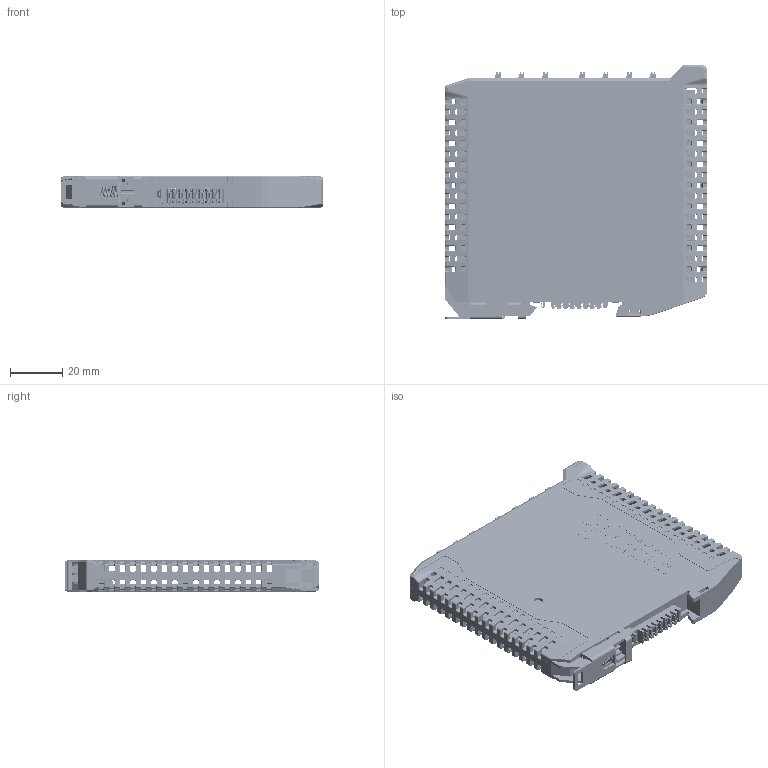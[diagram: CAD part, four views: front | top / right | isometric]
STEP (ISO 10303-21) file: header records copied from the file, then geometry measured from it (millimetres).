
FILE_DESCRIPTION((''),'2;1');
FILE_NAME('DAUDIN_GF2-AI01T_ASM','2023-06-07T',('Rex.Song'),(''),'CREO PARAMETRIC BY PTC INC, 2015480','CREO PARAMETRIC BY PTC INC, 2015480','');
FILE_SCHEMA(('CONFIG_CONTROL_DESIGN'));
Products named in the file (16): PCB_BS-521XND-C008_AF0; 0173P40300_AF1; 0173B02000; C000004600_AF1; BS-521XND-01_AF2_ASM; 0173P50300_AF1; BS-521XND-02_AF2_ASM; BS-521XND-C008_AF0_ASM; BS-521XND-C008SA30_AF0_ASM; A001824301; DAUDAI_GF2-AI02T_1_4; 0173D2XX00; 0173B00100; 0173B01500; BS-100_ASM; DAUDIN_GF2-AI01T_ASM
Assembly tree (22 placements, depth 5):
  DAUDIN_GF2-AI01T_ASM
    BS-521XND-C008SA30_AF0_ASM
      BS-521XND-C008_AF0_ASM
        PCB_BS-521XND-C008_AF0
        BS-521XND-01_AF2_ASM
          0173P40300_AF1
          0173B02000
          C000004600_AF1
        BS-521XND-02_AF2_ASM
          0173P50300_AF1
    A001824301
    DAUDAI_GF2-AI02T_1_4
    BS-100_ASM
      0173D2XX00
      0173B00100  x8
      0173B01500
Bounding box: 100 x 97 x 12 mm (x, y, z)
Volume: 36588.1 mm3; surface area: 66215.4 mm2
Topology: 18 solids, 29 shells, 9706 faces, 26046 edges, 16390 vertices
Faces by surface type: plane 4240, cylinder 3146, extrusion 878, bspline 737, torus 450, cone 198, sphere 52, revolution 5
Entity records: 371250 total; most frequent: CARTESIAN_POINT 135286, ORIENTED_EDGE 48475, DIRECTION 41891, EDGE_CURVE 24298, VECTOR 15476, VERTEX_POINT 15382, LINE 14598, AXIS2_PLACEMENT_3D 13205
